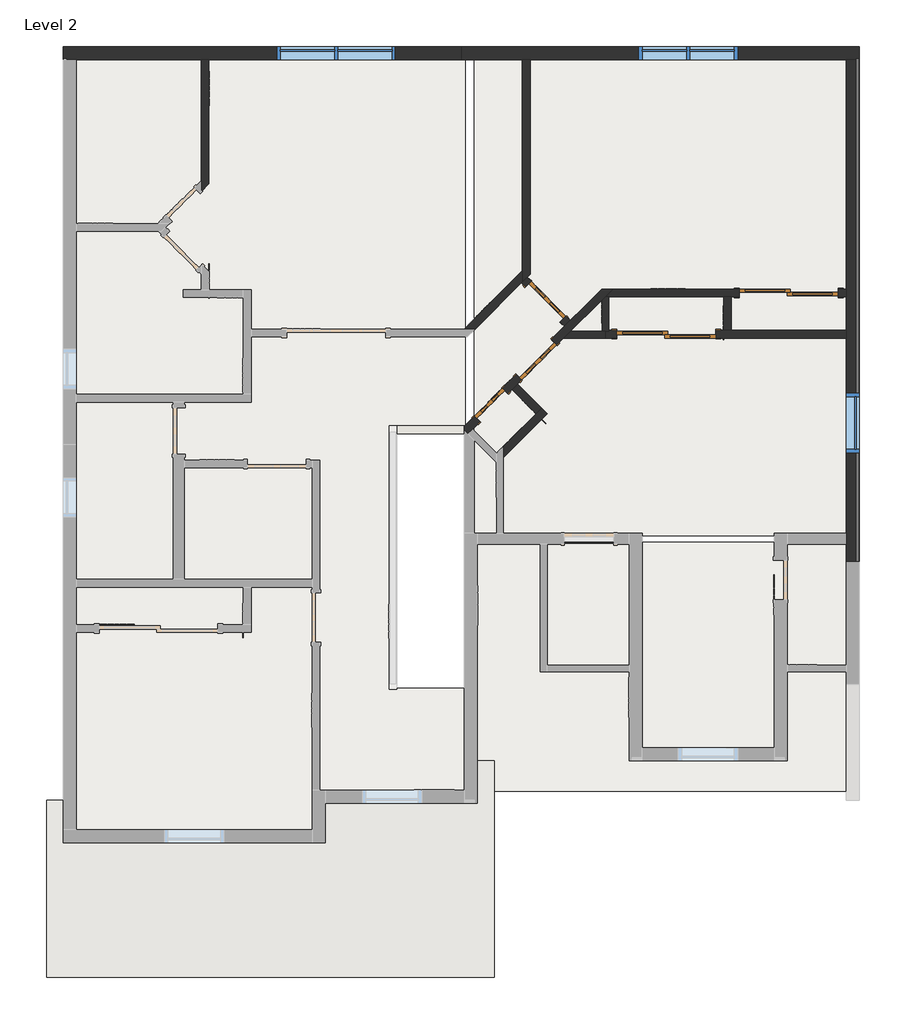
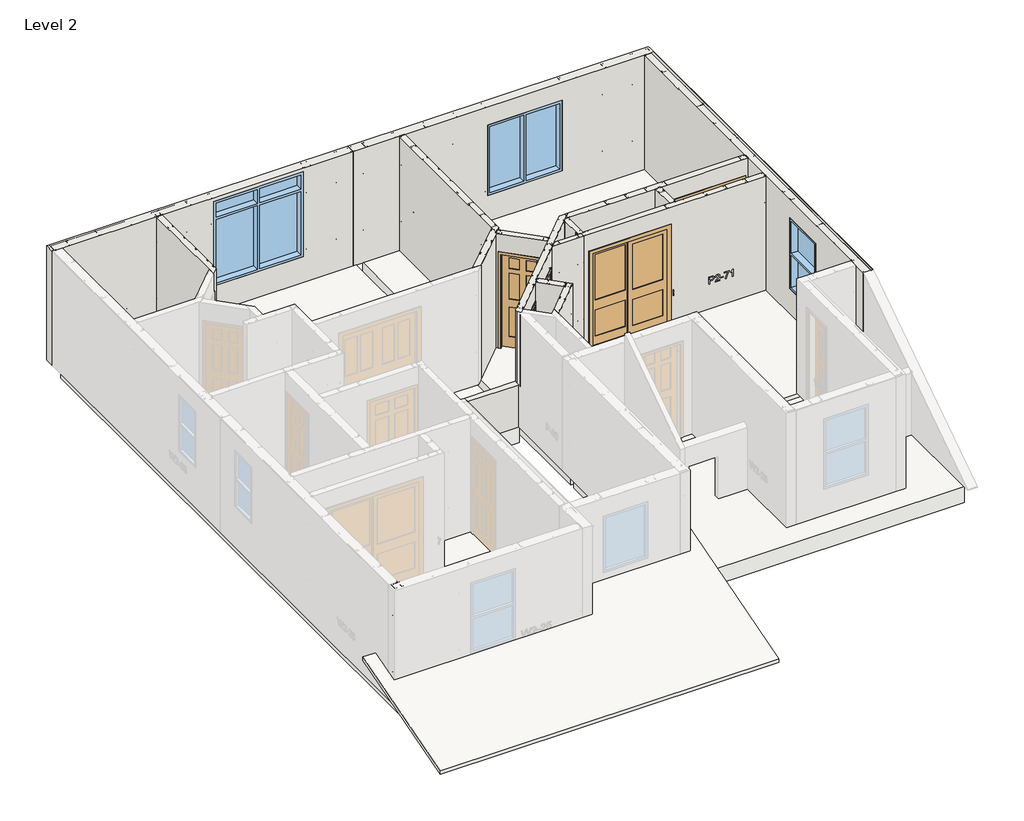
# One storey, part 2 of 46: 16 walls, 5 doors, 3 columns, 3 plates, 3 slabs, 3 windows, 1 roof.
"""IFC4 building model written with IfcOpenShell, lengths in millimetres."""

from ifc_helpers import new_model, si_unit, point, frame, origin, place, context, project, spatial, polyline, circle_curve, ellipse_curve, trimmed, outline, extrude, faceted_brep, transform, mapped, element, save
from ifc_brep_helpers import plane_surface, extruded_surface, advanced_brep
from components import door_9762c4b2, door_449ada1f, door_adb7d28e, system_panel_529702df, system_panel_3e733371, system_panel_1bcdafc3, window_880e6243, window_cc970383, window_7a97fd41

model = new_model("IFC4")

# Units and contexts
model_context = context("Model", 3, world=origin())
ifc_project = project(units=[si_unit("LENGTHUNIT", "METRE", prefix="MILLI")], contexts=[model_context])

# Site, building, storey
site = spatial("IfcSite", under=ifc_project)
building = spatial("IfcBuilding", under=site)
storey = spatial("IfcBuildingStorey", under=building, Name="Level 2", Elevation=3060.7)

# Columns
placement = place(None, origin())
element("IfcColumn", 1, ObjectType="BIMSF-SSMA-S-Column : 550NF150-43", at=placement, inside=storey, context=model_context, shape_type="AdvancedBrep", body=[
    advanced_brep(
    [(-15124.2413349, 1952.752221, 3061.5929687), (-15263.9413349, 1952.752221, 3061.5929687), (-15263.9413349, 1990.852221, 3061.5929687), (-15258.0164507, 1990.852221, 3061.5929687), (-15258.0164507, 1989.7025367, 3061.5929687), (-15262.7916507, 1989.7025367, 3061.5929687), (-15262.7916507, 1953.9019052, 3061.5929687), (-15125.3910191, 1953.9019052, 3061.5929687), (-15125.3910191, 1989.7025367, 3061.5929687), (-15130.1662191, 1989.7025367, 3061.5929687), (-15130.1662191, 1990.852221, 3061.5929687), (-15124.2413349, 1990.852221, 3061.5929687), (-15124.2413349, 1952.752221, 5523.6070313), (-15263.9413349, 1952.752221, 5523.6070313), (-15206.7913349, 1952.752221, 3671.1929688), (-15181.3913349, 1952.752221, 3671.1929688), (-15206.7913349, 1952.752221, 4890.3929687), (-15181.3913349, 1952.752221, 4890.3929687), (-15263.9413349, 1990.852221, 5523.6070313), (-15258.0164507, 1990.852221, 5523.6070313), (-15258.0164507, 1989.7025367, 5523.6070313), (-15262.7916507, 1989.7025367, 5523.6070313), (-15262.7916507, 1953.9019052, 5523.6070313), (-15125.3910191, 1953.9019052, 5523.6070313), (-15181.3913349, 1953.9019052, 3671.1929688), (-15206.7913349, 1953.9019052, 3671.1929688), (-15181.3913349, 1953.9019052, 4890.3929687), (-15206.7913349, 1953.9019052, 4890.3929687), (-15125.3910191, 1989.7025367, 5523.6070313), (-15130.1662191, 1989.7025367, 5523.6070313), (-15130.1662191, 1990.852221, 5523.6070313), (-15124.2413349, 1990.852221, 5523.6070313)],
    [
        (0, 1),
        (1, 2),
        (2, 3),
        (3, 4),
        (4, 5),
        (5, 6),
        (6, 7),
        (7, 8),
        (8, 9),
        (9, 10),
        (10, 11),
        (11, 0),
        (0, 12),
        (12, 13),
        (13, 1),
        (14, 15, circle_curve(frame((-15194.0913349, 1952.752221, 3671.1929687), z_axis=(0.0, 1.0, 0.0), x_axis=(-1.0, 0.0, 0.0)), 12.7)),
        (15, 14, circle_curve(frame((-15194.0913349, 1952.752221, 3671.1929687), z_axis=(0.0, 1.0, 0.0), x_axis=(-1.0, 0.0, 0.0)), 12.7)),
        (16, 17, circle_curve(frame((-15194.0913349, 1952.752221, 4890.3929687), z_axis=(0.0, 1.0, 0.0), x_axis=(-1.0, 0.0, 0.0)), 12.7)),
        (17, 16, circle_curve(frame((-15194.0913349, 1952.752221, 4890.3929687), z_axis=(0.0, 1.0, 0.0), x_axis=(-1.0, 0.0, 0.0)), 12.7)),
        (13, 18),
        (18, 2),
        (18, 19),
        (19, 3),
        (19, 20),
        (20, 4),
        (20, 21),
        (21, 5),
        (21, 22),
        (22, 6),
        (22, 23),
        (23, 7),
        (24, 25, circle_curve(frame((-15194.0913349, 1953.9019052, 3671.1929687), z_axis=(0.0, -1.0, 0.0), x_axis=(-1.0, 0.0, 0.0)), 12.7)),
        (25, 24, circle_curve(frame((-15194.0913349, 1953.9019052, 3671.1929688), z_axis=(0.0, -1.0, 0.0), x_axis=(-1.0, 0.0, 0.0)), 12.7)),
        (26, 27, circle_curve(frame((-15194.0913349, 1953.9019052, 4890.3929687), z_axis=(0.0, -1.0, 0.0), x_axis=(-1.0, 0.0, 0.0)), 12.7)),
        (27, 26, circle_curve(frame((-15194.0913349, 1953.9019052, 4890.3929687), z_axis=(0.0, -1.0, 0.0), x_axis=(-1.0, 0.0, 0.0)), 12.7)),
        (23, 28),
        (28, 8),
        (28, 29),
        (29, 9),
        (29, 30),
        (30, 10),
        (30, 31),
        (31, 11),
        (31, 12),
        (24, 15),
        (14, 25),
        (26, 17),
        (16, 27),
    ],
    [
        plane_surface(frame((-15124.2413349, 1952.752221, 3061.5929687), z_axis=(0.0, 0.0, -1.0), x_axis=(0.0, -1.0, 0.0))),
        plane_surface(frame((-15263.9413349, 1952.752221, 5523.6070313), z_axis=(0.0, -1.0, 0.0), x_axis=(0.0, 0.0, -1.0))),
        plane_surface(frame((-15263.9413349, 1990.852221, 5523.6070313), z_axis=(-1.0, 0.0, 0.0), x_axis=(0.0, 0.0, -1.0))),
        plane_surface(frame((-15258.0164507, 1990.852221, 5523.6070313), z_axis=(0.0, 1.0, 0.0), x_axis=(0.0, 0.0, -1.0))),
        plane_surface(frame((-15258.0164507, 1989.7025367, 5523.6070313), z_axis=(1.0, 0.0, 0.0), x_axis=(0.0, 0.0, -1.0))),
        plane_surface(frame((-15262.7916507, 1989.7025367, 5523.6070313), z_axis=(0.0, -1.0, 0.0), x_axis=(0.0, 0.0, -1.0))),
        plane_surface(frame((-15262.7916507, 1953.9019052, 5523.6070313), z_axis=(1.0, 0.0, 0.0), x_axis=(0.0, 0.0, -1.0))),
        plane_surface(frame((-15125.3910191, 1953.9019052, 5523.6070313), z_axis=(0.0, 1.0, 0.0), x_axis=(0.0, 0.0, -1.0))),
        plane_surface(frame((-15125.3910191, 1989.7025367, 5523.6070313), z_axis=(-1.0, 0.0, 0.0), x_axis=(0.0, 0.0, -1.0))),
        plane_surface(frame((-15130.1662191, 1989.7025367, 5523.6070313), z_axis=(0.0, -1.0, 0.0), x_axis=(0.0, 0.0, -1.0))),
        plane_surface(frame((-15130.1662191, 1990.852221, 5523.6070313), z_axis=(-1.0, 0.0, 0.0), x_axis=(0.0, 0.0, -1.0))),
        plane_surface(frame((-15124.2413349, 1990.852221, 5523.6070313), z_axis=(0.0, 1.0, 0.0), x_axis=(0.0, 0.0, -1.0))),
        plane_surface(frame((-15124.2413349, 1952.752221, 5523.6070313), z_axis=(1.0, 0.0, 0.0), x_axis=(0.0, 0.0, -1.0))),
        plane_surface(frame((-15124.2413349, 1952.752221, 5523.6070313), z_axis=(0.0, 0.0, 1.0), x_axis=(0.0, 1.0, 0.0))),
        extruded_surface(trimmed(ellipse_curve(frame((-15194.0913349, 4433.8162835, 3671.1929688), z_axis=(0.0, -1.0, 0.0), x_axis=(-1.0, 0.0, 0.0)), 12.7, 12.7), [point((-15181.3913349, 4433.8162835, 3671.1929688))], [point((-15206.7913349, 4433.8162835, 3671.1929688))], True, "CARTESIAN"), (0.0, 4924.028124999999, 0.0), 4924.028124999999),
        extruded_surface(trimmed(ellipse_curve(frame((-15194.0913349, 4433.8162835, 3671.1929688), z_axis=(0.0, -1.0, 0.0), x_axis=(-1.0, 0.0, 0.0)), 12.7, 12.7), [point((-15206.7913349, 4433.8162835, 3671.1929688))], [point((-15181.3913349, 4433.8162835, 3671.1929688))], True, "CARTESIAN"), (0.0, 4924.028124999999, 0.0), 4924.028124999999),
        extruded_surface(trimmed(ellipse_curve(frame((-15194.0913349, 4433.8162835, 4890.3929687), z_axis=(0.0, -1.0, 0.0), x_axis=(-1.0, 0.0, 0.0)), 12.7, 12.7), [point((-15181.3913349, 4433.8162835, 4890.3929687))], [point((-15206.7913349, 4433.8162835, 4890.3929687))], True, "CARTESIAN"), (0.0, 4924.028124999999, 0.0), 4924.028124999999),
        extruded_surface(trimmed(ellipse_curve(frame((-15194.0913349, 4433.8162835, 4890.3929687), z_axis=(0.0, -1.0, 0.0), x_axis=(-1.0, 0.0, 0.0)), 12.7, 12.7), [point((-15206.7913349, 4433.8162835, 4890.3929687))], [point((-15181.3913349, 4433.8162835, 4890.3929687))], True, "CARTESIAN"), (0.0, 4924.028124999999, 0.0), 4924.028124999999),
    ],
    [
        (0, [[1, 2, 3, 4, 5, 6, 7, 8, 9, 10, 11, 12]]),
        (1, [[-1, 13, 14, 15], [16, 17], [18, 19]]),
        (2, [[-2, -15, 20, 21]]),
        (3, [[-3, -21, 22, 23]]),
        (4, [[-4, -23, 24, 25]]),
        (5, [[-5, -25, 26, 27]]),
        (6, [[-6, -27, 28, 29]]),
        (7, [[-7, -29, 30, 31], [32, 33], [34, 35]]),
        (8, [[-8, -31, 36, 37]]),
        (9, [[-9, -37, 38, 39]]),
        (10, [[-10, -39, 40, 41]]),
        (11, [[-11, -41, 42, 43]]),
        (12, [[-12, -43, 44, -13]]),
        (13, [[-14, -44, -42, -40, -38, -36, -30, -28, -26, -24, -22, -20]]),
        (14, [[45, -16, 46, -32]]),
        (15, [[-45, -33, -46, -17]]),
        (16, [[47, -18, 48, -34]]),
        (17, [[-47, -35, -48, -19]]),
    ],
),
])
element("IfcColumn", 2, ObjectType="BIMSF-SSMA-S-Column : 550NF150-43", at=placement, inside=storey, context=model_context, shape_type="AdvancedBrep", body=[
    advanced_brep(
    [(-15263.9413349, 1813.052221, 3061.5929687), (-15263.9413349, 1952.752221, 3061.5929687), (-15225.8413349, 1952.752221, 3061.5929687), (-15225.8413349, 1946.8273367, 3061.5929687), (-15226.9910191, 1946.8273367, 3061.5929687), (-15226.9910191, 1951.6025367, 3061.5929687), (-15262.7916507, 1951.6025367, 3061.5929687), (-15262.7916507, 1814.2019052, 3061.5929687), (-15226.9910191, 1814.2019052, 3061.5929687), (-15226.9910191, 1818.9771052, 3061.5929687), (-15225.8413349, 1818.9771052, 3061.5929687), (-15225.8413349, 1813.052221, 3061.5929687), (-15263.9413349, 1813.052221, 5523.6070313), (-15263.9413349, 1952.752221, 5523.6070313), (-15263.9413349, 1895.602221, 3671.1929688), (-15263.9413349, 1870.202221, 3671.1929688), (-15263.9413349, 1895.602221, 4890.3929687), (-15263.9413349, 1870.202221, 4890.3929687), (-15225.8413349, 1952.752221, 5523.6070313), (-15225.8413349, 1946.8273367, 5523.6070313), (-15226.9910191, 1946.8273367, 5523.6070313), (-15226.9910191, 1951.6025367, 5523.6070313), (-15262.7916507, 1951.6025367, 5523.6070313), (-15262.7916507, 1814.2019052, 5523.6070313), (-15262.7916507, 1870.202221, 3671.1929688), (-15262.7916507, 1895.602221, 3671.1929688), (-15262.7916507, 1870.202221, 4890.3929687), (-15262.7916507, 1895.602221, 4890.3929687), (-15226.9910191, 1814.2019052, 5523.6070313), (-15226.9910191, 1818.9771052, 5523.6070313), (-15225.8413349, 1818.9771052, 5523.6070313), (-15225.8413349, 1813.052221, 5523.6070313)],
    [
        (0, 1),
        (1, 2),
        (2, 3),
        (3, 4),
        (4, 5),
        (5, 6),
        (6, 7),
        (7, 8),
        (8, 9),
        (9, 10),
        (10, 11),
        (11, 0),
        (0, 12),
        (12, 13),
        (13, 1),
        (14, 15, circle_curve(frame((-15263.9413349, 1882.902221, 3671.1929687), z_axis=(1.0, 0.0, 0.0), x_axis=(0.0, 1.0, 0.0)), 12.7)),
        (15, 14, circle_curve(frame((-15263.9413349, 1882.902221, 3671.1929687), z_axis=(1.0, 0.0, 0.0), x_axis=(0.0, 1.0, 0.0)), 12.7)),
        (16, 17, circle_curve(frame((-15263.9413349, 1882.902221, 4890.3929687), z_axis=(1.0, 0.0, 0.0), x_axis=(0.0, 1.0, 0.0)), 12.7)),
        (17, 16, circle_curve(frame((-15263.9413349, 1882.902221, 4890.3929687), z_axis=(1.0, 0.0, 0.0), x_axis=(0.0, 1.0, 0.0)), 12.7)),
        (13, 18),
        (18, 2),
        (18, 19),
        (19, 3),
        (19, 20),
        (20, 4),
        (20, 21),
        (21, 5),
        (21, 22),
        (22, 6),
        (22, 23),
        (23, 7),
        (24, 25, circle_curve(frame((-15262.7916507, 1882.902221, 3671.1929687), z_axis=(-1.0, 0.0, 0.0), x_axis=(0.0, 1.0, 0.0)), 12.7)),
        (25, 24, circle_curve(frame((-15262.7916507, 1882.902221, 3671.1929687), z_axis=(-1.0, 0.0, 0.0), x_axis=(0.0, 1.0, 0.0)), 12.7)),
        (26, 27, circle_curve(frame((-15262.7916507, 1882.902221, 4890.3929687), z_axis=(-1.0, 0.0, 0.0), x_axis=(0.0, 1.0, 0.0)), 12.7)),
        (27, 26, circle_curve(frame((-15262.7916507, 1882.902221, 4890.3929687), z_axis=(-1.0, 0.0, 0.0), x_axis=(0.0, 1.0, 0.0)), 12.7)),
        (23, 28),
        (28, 8),
        (28, 29),
        (29, 9),
        (29, 30),
        (30, 10),
        (30, 31),
        (31, 11),
        (31, 12),
        (24, 15),
        (14, 25),
        (26, 17),
        (16, 27),
    ],
    [
        plane_surface(frame((-15263.9413349, 1813.052221, 3061.5929687), z_axis=(0.0, 0.0, -1.0), x_axis=(-1.0, 0.0, 0.0))),
        plane_surface(frame((-15263.9413349, 1952.752221, 5523.6070313), z_axis=(-1.0, 0.0, 0.0), x_axis=(0.0, 0.0, -1.0))),
        plane_surface(frame((-15225.8413349, 1952.752221, 5523.6070313), z_axis=(0.0, 1.0, 0.0), x_axis=(0.0, 0.0, -1.0))),
        plane_surface(frame((-15225.8413349, 1946.8273367, 5523.6070313), z_axis=(1.0, 0.0, 0.0), x_axis=(0.0, 0.0, -1.0))),
        plane_surface(frame((-15226.9910191, 1946.8273367, 5523.6070313), z_axis=(0.0, -1.0, 0.0), x_axis=(0.0, 0.0, -1.0))),
        plane_surface(frame((-15226.9910191, 1951.6025367, 5523.6070313), z_axis=(-1.0, 0.0, 0.0), x_axis=(0.0, 0.0, -1.0))),
        plane_surface(frame((-15262.7916507, 1951.6025367, 5523.6070313), z_axis=(0.0, -1.0, 0.0), x_axis=(0.0, 0.0, -1.0))),
        plane_surface(frame((-15262.7916507, 1814.2019052, 5523.6070313), z_axis=(1.0, 0.0, 0.0), x_axis=(0.0, 0.0, -1.0))),
        plane_surface(frame((-15226.9910191, 1814.2019052, 5523.6070313), z_axis=(0.0, 1.0, 0.0), x_axis=(0.0, 0.0, -1.0))),
        plane_surface(frame((-15226.9910191, 1818.9771052, 5523.6070313), z_axis=(-1.0, 0.0, 0.0), x_axis=(0.0, 0.0, -1.0))),
        plane_surface(frame((-15225.8413349, 1818.9771052, 5523.6070313), z_axis=(0.0, 1.0, 0.0), x_axis=(0.0, 0.0, -1.0))),
        plane_surface(frame((-15225.8413349, 1813.052221, 5523.6070313), z_axis=(1.0, 0.0, 0.0), x_axis=(0.0, 0.0, -1.0))),
        plane_surface(frame((-15263.9413349, 1813.052221, 5523.6070313), z_axis=(0.0, -1.0, 0.0), x_axis=(0.0, 0.0, -1.0))),
        plane_surface(frame((-15263.9413349, 1813.052221, 5523.6070313), z_axis=(0.0, 0.0, 1.0), x_axis=(1.0, 0.0, 0.0))),
        extruded_surface(trimmed(ellipse_curve(frame((-12782.8772724, 1882.902221, 3671.1929688), z_axis=(-1.0, 0.0, 0.0), x_axis=(0.0, 1.0, 0.0)), 12.7, 12.7), [point((-12782.8772724, 1870.202221, 3671.1929688))], [point((-12782.8772724, 1895.602221, 3671.1929688))], True, "CARTESIAN"), (4924.028124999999, 0.0, 0.0), 4924.028124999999),
        extruded_surface(trimmed(ellipse_curve(frame((-12782.8772724, 1882.902221, 3671.1929688), z_axis=(-1.0, 0.0, 0.0), x_axis=(0.0, 1.0, 0.0)), 12.7, 12.7), [point((-12782.8772724, 1895.602221, 3671.1929688))], [point((-12782.8772724, 1870.202221, 3671.1929688))], True, "CARTESIAN"), (4924.028124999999, 0.0, 0.0), 4924.028124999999),
        extruded_surface(trimmed(ellipse_curve(frame((-12782.8772724, 1882.902221, 4890.3929687), z_axis=(-1.0, 0.0, 0.0), x_axis=(0.0, 1.0, 0.0)), 12.7, 12.7), [point((-12782.8772724, 1870.202221, 4890.3929687))], [point((-12782.8772724, 1895.602221, 4890.3929687))], True, "CARTESIAN"), (4924.028124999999, 0.0, 0.0), 4924.028124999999),
        extruded_surface(trimmed(ellipse_curve(frame((-12782.8772724, 1882.902221, 4890.3929687), z_axis=(-1.0, 0.0, 0.0), x_axis=(0.0, 1.0, 0.0)), 12.7, 12.7), [point((-12782.8772724, 1895.602221, 4890.3929687))], [point((-12782.8772724, 1870.202221, 4890.3929687))], True, "CARTESIAN"), (4924.028124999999, 0.0, 0.0), 4924.028124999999),
    ],
    [
        (0, [[1, 2, 3, 4, 5, 6, 7, 8, 9, 10, 11, 12]]),
        (1, [[-1, 13, 14, 15], [16, 17], [18, 19]]),
        (2, [[-2, -15, 20, 21]]),
        (3, [[-3, -21, 22, 23]]),
        (4, [[-4, -23, 24, 25]]),
        (5, [[-5, -25, 26, 27]]),
        (6, [[-6, -27, 28, 29]]),
        (7, [[-7, -29, 30, 31], [32, 33], [34, 35]]),
        (8, [[-8, -31, 36, 37]]),
        (9, [[-9, -37, 38, 39]]),
        (10, [[-10, -39, 40, 41]]),
        (11, [[-11, -41, 42, 43]]),
        (12, [[-12, -43, 44, -13]]),
        (13, [[-14, -44, -42, -40, -38, -36, -30, -28, -26, -24, -22, -20]]),
        (14, [[45, -16, 46, -32]]),
        (15, [[-45, -33, -46, -17]]),
        (16, [[47, -18, 48, -34]]),
        (17, [[-47, -35, -48, -19]]),
    ],
),
])
element("IfcColumn", 3, ObjectType="BIMSF-SSMA-S-Column : 550NF150-43", at=placement, inside=storey, context=model_context, shape_type="AdvancedBrep", body=[
    advanced_brep(
    [(-15130.5913349, 1813.052221, 3061.5929687), (-15130.5913349, 1952.752221, 3061.5929687), (-15092.4913349, 1952.752221, 3061.5929687), (-15092.4913349, 1946.8273367, 3061.5929687), (-15093.6410191, 1946.8273367, 3061.5929687), (-15093.6410191, 1951.6025367, 3061.5929687), (-15129.4416507, 1951.6025367, 3061.5929687), (-15129.4416507, 1814.2019052, 3061.5929687), (-15093.6410191, 1814.2019052, 3061.5929687), (-15093.6410191, 1818.9771052, 3061.5929687), (-15092.4913349, 1818.9771052, 3061.5929687), (-15092.4913349, 1813.052221, 3061.5929687), (-15130.5913349, 1813.052221, 5523.6070313), (-15130.5913349, 1952.752221, 5523.6070313), (-15130.5913349, 1895.602221, 3671.1929688), (-15130.5913349, 1870.202221, 3671.1929688), (-15130.5913349, 1895.602221, 4890.3929687), (-15130.5913349, 1870.202221, 4890.3929687), (-15092.4913349, 1952.752221, 5523.6070313), (-15092.4913349, 1946.8273367, 5523.6070313), (-15093.6410191, 1946.8273367, 5523.6070313), (-15093.6410191, 1951.6025367, 5523.6070313), (-15129.4416507, 1951.6025367, 5523.6070313), (-15129.4416507, 1814.2019052, 5523.6070313), (-15129.4416507, 1870.202221, 3671.1929688), (-15129.4416507, 1895.602221, 3671.1929688), (-15129.4416507, 1870.202221, 4890.3929687), (-15129.4416507, 1895.602221, 4890.3929687), (-15093.6410191, 1814.2019052, 5523.6070313), (-15093.6410191, 1818.9771052, 5523.6070313), (-15092.4913349, 1818.9771052, 5523.6070313), (-15092.4913349, 1813.052221, 5523.6070313)],
    [
        (0, 1),
        (1, 2),
        (2, 3),
        (3, 4),
        (4, 5),
        (5, 6),
        (6, 7),
        (7, 8),
        (8, 9),
        (9, 10),
        (10, 11),
        (11, 0),
        (0, 12),
        (12, 13),
        (13, 1),
        (14, 15, circle_curve(frame((-15130.5913349, 1882.902221, 3671.1929688), z_axis=(1.0, 0.0, 0.0), x_axis=(0.0, 1.0, 0.0)), 12.7)),
        (15, 14, circle_curve(frame((-15130.5913349, 1882.902221, 3671.1929688), z_axis=(1.0, 0.0, 0.0), x_axis=(0.0, 1.0, 0.0)), 12.7)),
        (16, 17, circle_curve(frame((-15130.5913349, 1882.902221, 4890.3929687), z_axis=(1.0, 0.0, 0.0), x_axis=(0.0, 1.0, 0.0)), 12.7)),
        (17, 16, circle_curve(frame((-15130.5913349, 1882.902221, 4890.3929687), z_axis=(1.0, 0.0, 0.0), x_axis=(0.0, 1.0, 0.0)), 12.7)),
        (13, 18),
        (18, 2),
        (18, 19),
        (19, 3),
        (19, 20),
        (20, 4),
        (20, 21),
        (21, 5),
        (21, 22),
        (22, 6),
        (22, 23),
        (23, 7),
        (24, 25, circle_curve(frame((-15129.4416507, 1882.902221, 3671.1929687), z_axis=(-1.0, 0.0, 0.0), x_axis=(0.0, 1.0, 0.0)), 12.7)),
        (25, 24, circle_curve(frame((-15129.4416507, 1882.902221, 3671.1929687), z_axis=(-1.0, 0.0, 0.0), x_axis=(0.0, 1.0, 0.0)), 12.7)),
        (26, 27, circle_curve(frame((-15129.4416507, 1882.902221, 4890.3929687), z_axis=(-1.0, 0.0, 0.0), x_axis=(0.0, 1.0, 0.0)), 12.7)),
        (27, 26, circle_curve(frame((-15129.4416507, 1882.902221, 4890.3929687), z_axis=(-1.0, 0.0, 0.0), x_axis=(0.0, 1.0, 0.0)), 12.7)),
        (23, 28),
        (28, 8),
        (28, 29),
        (29, 9),
        (29, 30),
        (30, 10),
        (30, 31),
        (31, 11),
        (31, 12),
        (24, 15),
        (14, 25),
        (26, 17),
        (16, 27),
    ],
    [
        plane_surface(frame((-15130.5913349, 1813.052221, 3061.5929687), z_axis=(0.0, 0.0, -1.0), x_axis=(-1.0, 0.0, 0.0))),
        plane_surface(frame((-15130.5913349, 1952.752221, 5523.6070313), z_axis=(-1.0, 0.0, 0.0), x_axis=(0.0, 0.0, -1.0))),
        plane_surface(frame((-15092.4913349, 1952.752221, 5523.6070313), z_axis=(0.0, 1.0, 0.0), x_axis=(0.0, 0.0, -1.0))),
        plane_surface(frame((-15092.4913349, 1946.8273367, 5523.6070313), z_axis=(1.0, 0.0, 0.0), x_axis=(0.0, 0.0, -1.0))),
        plane_surface(frame((-15093.6410191, 1946.8273367, 5523.6070313), z_axis=(0.0, -1.0, 0.0), x_axis=(0.0, 0.0, -1.0))),
        plane_surface(frame((-15093.6410191, 1951.6025367, 5523.6070313), z_axis=(-1.0, 0.0, 0.0), x_axis=(0.0, 0.0, -1.0))),
        plane_surface(frame((-15129.4416507, 1951.6025367, 5523.6070313), z_axis=(0.0, -1.0, 0.0), x_axis=(0.0, 0.0, -1.0))),
        plane_surface(frame((-15129.4416507, 1814.2019052, 5523.6070313), z_axis=(1.0, 0.0, 0.0), x_axis=(0.0, 0.0, -1.0))),
        plane_surface(frame((-15093.6410191, 1814.2019052, 5523.6070313), z_axis=(0.0, 1.0, 0.0), x_axis=(0.0, 0.0, -1.0))),
        plane_surface(frame((-15093.6410191, 1818.9771052, 5523.6070313), z_axis=(-1.0, 0.0, 0.0), x_axis=(0.0, 0.0, -1.0))),
        plane_surface(frame((-15092.4913349, 1818.9771052, 5523.6070313), z_axis=(0.0, 1.0, 0.0), x_axis=(0.0, 0.0, -1.0))),
        plane_surface(frame((-15092.4913349, 1813.052221, 5523.6070313), z_axis=(1.0, 0.0, 0.0), x_axis=(0.0, 0.0, -1.0))),
        plane_surface(frame((-15130.5913349, 1813.052221, 5523.6070313), z_axis=(0.0, -1.0, 0.0), x_axis=(0.0, 0.0, -1.0))),
        plane_surface(frame((-15130.5913349, 1813.052221, 5523.6070313), z_axis=(0.0, 0.0, 1.0), x_axis=(1.0, 0.0, 0.0))),
        extruded_surface(trimmed(ellipse_curve(frame((-12649.5272724, 1882.902221, 3671.1929688), z_axis=(-1.0, 0.0, 0.0), x_axis=(0.0, 1.0, 0.0)), 12.7, 12.7), [point((-12649.5272724, 1870.202221, 3671.1929688))], [point((-12649.5272724, 1895.602221, 3671.1929688))], True, "CARTESIAN"), (4924.028125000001, 0.0, 0.0), 4924.028125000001),
        extruded_surface(trimmed(ellipse_curve(frame((-12649.5272724, 1882.902221, 3671.1929688), z_axis=(-1.0, 0.0, 0.0), x_axis=(0.0, 1.0, 0.0)), 12.7, 12.7), [point((-12649.5272724, 1895.602221, 3671.1929688))], [point((-12649.5272724, 1870.202221, 3671.1929688))], True, "CARTESIAN"), (4924.028125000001, 0.0, 0.0), 4924.028125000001),
        extruded_surface(trimmed(ellipse_curve(frame((-12649.5272724, 1882.902221, 4890.3929687), z_axis=(-1.0, 0.0, 0.0), x_axis=(0.0, 1.0, 0.0)), 12.7, 12.7), [point((-12649.5272724, 1870.202221, 4890.3929687))], [point((-12649.5272724, 1895.602221, 4890.3929687))], True, "CARTESIAN"), (4924.028125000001, 0.0, 0.0), 4924.028125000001),
        extruded_surface(trimmed(ellipse_curve(frame((-12649.5272724, 1882.902221, 4890.3929687), z_axis=(-1.0, 0.0, 0.0), x_axis=(0.0, 1.0, 0.0)), 12.7, 12.7), [point((-12649.5272724, 1895.602221, 4890.3929687))], [point((-12649.5272724, 1870.202221, 4890.3929687))], True, "CARTESIAN"), (4924.028125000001, 0.0, 0.0), 4924.028125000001),
    ],
    [
        (0, [[1, 2, 3, 4, 5, 6, 7, 8, 9, 10, 11, 12]]),
        (1, [[-1, 13, 14, 15], [16, 17], [18, 19]]),
        (2, [[-2, -15, 20, 21]]),
        (3, [[-3, -21, 22, 23]]),
        (4, [[-4, -23, 24, 25]]),
        (5, [[-5, -25, 26, 27]]),
        (6, [[-6, -27, 28, 29]]),
        (7, [[-7, -29, 30, 31], [32, 33], [34, 35]]),
        (8, [[-8, -31, 36, 37]]),
        (9, [[-9, -37, 38, 39]]),
        (10, [[-10, -39, 40, 41]]),
        (11, [[-11, -41, 42, 43]]),
        (12, [[-12, -43, 44, -13]]),
        (13, [[-14, -44, -42, -40, -38, -36, -30, -28, -26, -24, -22, -20]]),
        (14, [[45, -16, 46, -32]]),
        (15, [[-45, -33, -46, -17]]),
        (16, [[47, -18, 48, -34]]),
        (17, [[-47, -35, -48, -19]]),
    ],
),
])

# Doors
door_shape = door_9762c4b2(model_context)
element("IfcDoor", 4, ObjectType="INT_Single : 2'-0\" x 6'-8\"", at=placement, inside=storey, context=model_context, shape_type="MappedRepresentation", body=[
    mapped(door_shape, transform((-8705.1652416, 8522.4486211, 3060.7), x_axis=(0.7071067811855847, 0.7071067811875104, 0.0), y_axis=(-0.7071067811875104, 0.7071067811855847, 0.0), z_axis=(0.0, 0.0, 1.0))),
])
door_2_shape = door_449ada1f(model_context)
element("IfcDoor", 5, ObjectType="INT_Single : 2'-6\" x 6'-8\"", at=placement, inside=storey, context=model_context, shape_type="MappedRepresentation", body=[
    mapped(door_2_shape, transform((-7863.2486153, 10116.5864223, 3060.7), x_axis=(0.7071067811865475, -0.7071067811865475, 0.0), y_axis=(0.7071067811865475, 0.7071067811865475, 0.0), z_axis=(0.0, 0.0, 1.0))),
])
element("IfcDoor", 6, ObjectType="INT_Single : 2'-6\" x 6'-8\"", at=placement, inside=storey, context=model_context, shape_type="MappedRepresentation", body=[
    mapped(door_2_shape, transform((-8006.8346733, 9220.7791894, 3060.7), x_axis=(-0.7071067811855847, -0.7071067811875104, 0.0), y_axis=(0.7071067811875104, -0.7071067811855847, 0.0), z_axis=(0.0, 0.0, 1.0))),
])
door_3_shape = door_adb7d28e(model_context)
element("IfcDoor", 7, ObjectType="INT_Sliding Closet : 5'-0\" x 6'-8\"", at=placement, inside=storey, context=model_context, shape_type="MappedRepresentation", body=[
    mapped(door_3_shape, transform((-6004.3049045, 9742.2035298, 3060.7), x_axis=(-1.0, 0.0, 0.0), y_axis=(0.0, -1.0, 0.0), z_axis=(0.0, 0.0, 1.0))),
])
element("IfcDoor", 8, ObjectType="INT_Sliding Closet : 5'-0\" x 6'-8\"", at=placement, inside=storey, context=model_context, shape_type="MappedRepresentation", body=[
    mapped(door_3_shape, transform((-4113.3413349, 10124.1207511, 3060.7), x_axis=(1.0, 0.0, 0.0), y_axis=(0.0, 1.0, 0.0), z_axis=(0.0, 0.0, 1.0))),
])

# Plates
system_panel_shape = system_panel_529702df(model_context)
element("IfcPlate", 9, ObjectType="System Panel : 1/2\" Plywood & 1\" Rigid Ins.", at=placement, inside=storey, context=model_context, shape_type="MappedRepresentation", body=[
    mapped(system_panel_shape, transform((-6119.9413349, 14024.102221, 3060.7), x_axis=(1.0, 0.0, 0.0), y_axis=(0.0, 1.0, 0.0), z_axis=(0.0, 0.0, 1.0))),
])
system_panel_2_shape = system_panel_3e733371(model_context)
element("IfcPlate", 10, ObjectType="System Panel : 1/2\" Plywood & 1\" Rigid Ins.", at=placement, inside=storey, context=model_context, shape_type="MappedRepresentation", body=[
    mapped(system_panel_2_shape, transform((-3052.8913349, 9984.8718592, 3060.7), x_axis=(0.0, -1.0, 0.0), y_axis=(1.0, 0.0, 0.0), z_axis=(0.0, 0.0, 1.0))),
])
system_panel_3_shape = system_panel_1bcdafc3(model_context)
element("IfcPlate", 11, ObjectType="System Panel : 1/2\" Plywood & 1\" Rigid Ins.", at=placement, inside=storey, context=model_context, shape_type="MappedRepresentation", body=[
    mapped(system_panel_3_shape, transform((-12215.9413349, 14024.102221, 3060.7), x_axis=(1.0, 0.0, 0.0), y_axis=(0.0, 1.0, 0.0), z_axis=(0.0, 0.0, 1.0))),
])

# Roof
element("IfcRoof", 12, ObjectType="Truss_250TC_01", at=placement, inside=storey, context=model_context, shape_type="Brep", body=[
    faceted_brep([(-15568.7413349, -314.197779, 2913.2932022), (-15568.7413349, 2422.652221, 3711.5411188), (-15309.9788349, 2422.652221, 3711.5411188), (-15263.9413349, 2422.652221, 3711.5411188), (-15263.9413349, 1968.627221, 3579.1171605), (-15263.9413349, 1813.052221, 3533.7411188), (-11469.8163349, 1813.052221, 3533.7411188), (-11314.2413349, 1813.052221, 3533.7411188), (-11314.2413349, 2422.652221, 3711.5411188), (-11268.2038349, 2422.652221, 3711.5411188), (-9120.3163349, 2422.652221, 3711.5411188), (-8964.7413349, 2422.652221, 3711.5411188), (-8964.7413349, 3032.252221, 3889.3411188), (-8918.7038349, 3032.252221, 3889.3411188), (-8659.9413349, 3032.252221, 3889.3411188), (-8659.9413349, -314.197779, 2913.2932022), (-15568.7413349, 2422.652221, 3790.9161188), (-15568.7413349, -314.197779, 2992.6682022), (-8659.9413349, -314.197779, 2992.6682022), (-8659.9413349, 3032.252221, 3968.7161188), (-8918.7038349, 3032.252221, 3968.7161188), (-8964.7413349, 3032.252221, 3968.7161188), (-8964.7413349, 2422.652221, 3790.9161188), (-9120.3163349, 2422.652221, 3790.9161188), (-11268.2038349, 2422.652221, 3790.9161188), (-11314.2413349, 2422.652221, 3790.9161188), (-11314.2413349, 1813.052221, 3613.1161188), (-11469.8163349, 1813.052221, 3613.1161188), (-15263.9413349, 1813.052221, 3613.1161188), (-15263.9413349, 1968.627221, 3658.4921605), (-15263.9413349, 2422.652221, 3790.9161188), (-15309.9788349, 2422.652221, 3790.9161188)], [[[0, 1, 2, 3, 4, 5, 6, 7, 8, 9, 10, 11, 12, 13, 14, 15]], [[16, 17, 18, 19, 20, 21, 22, 23, 24, 25, 26, 27, 28, 29, 30, 31]], [[15, 18, 17, 0]], [[17, 16, 1, 0]], [[19, 18, 15, 14]], [[28, 27, 26, 7, 6, 5]], [[26, 25, 8, 7]], [[25, 24, 23, 22, 11, 10, 9, 8]], [[21, 20, 19, 14, 13, 12]], [[22, 21, 12, 11]], [[16, 31, 30, 3, 2, 1]], [[30, 29, 28, 5, 4, 3]]]),
])

# Slabs
element("IfcSlab", 13, ObjectType="FLR_1200_01", at=placement, inside=storey, context=model_context, shape_type="SweptSolid", body=[
    extrude(outline(polyline([(-15124.2413349, 13865.352221), (-9104.4413349, 13865.352221), (-9104.4413349, 8097.4454064), (-10177.5913349, 8097.4454064), (-10177.5913349, 4150.3786599), (-9104.4413349, 4150.3786599), (-9104.4413349, 2562.352221), (-11453.9413349, 2562.352221), (-11453.9413349, 1952.752221), (-15124.2413349, 1952.752221), (-15124.2413349, 13865.352221)])), frame((0.0, 0.0, 2711.45), z_axis=(0.0, 0.0, 1.0), x_axis=(1.0, 0.0, 0.0)), (0.0, 0.0, 1.0), 349.25),
])
element("IfcSlab", 14, ObjectType="FLR_1200_01", at=placement, inside=storey, context=model_context, shape_type="SweptSolid", body=[
    extrude(outline(polyline([(-3211.6413349, 13865.352221), (-3211.6413349, 6505.702221), (-8964.7413349, 6505.702221), (-8964.7413349, 13865.352221), (-3211.6413349, 13865.352221)])), frame((0.0, 0.0, 2711.45), z_axis=(0.0, 0.0, 1.0), x_axis=(1.0, 0.0, 0.0)), (0.0, 0.0, 1.0), 349.25),
])
element("IfcSlab", 15, ObjectType="FLR_1200_01", at=placement, inside=storey, context=model_context, shape_type="SweptSolid", body=[
    extrude(outline(polyline([(-8964.7413349, 6404.102221), (-3211.6413349, 6404.102221), (-3211.6413349, 2562.352221), (-8964.7413349, 2562.352221), (-8964.7413349, 6404.102221)])), frame((0.0, 0.0, 2711.45), z_axis=(0.0, 0.0, 1.0), x_axis=(1.0, 0.0, 0.0)), (0.0, 0.0, 1.0), 349.25),
])

# Walls
element("IfcWall", 16, ObjectType="EXT_550_Siding_01", at=placement, inside=storey, context=model_context, shape_type="Brep", body=[
    faceted_brep([(-15309.9788349, 13849.477221, 3060.7), (-15108.3663349, 13849.477221, 3060.7), (-9167.9413349, 13849.477221, 3060.7), (-9167.9413349, 13849.477221, 5524.5), (-15108.3663349, 13849.477221, 5524.5), (-15263.9413349, 13849.477221, 5524.5), (-15309.9788349, 13849.477221, 5524.5), (-12012.7413349, 13849.477221, 3619.5), (-12012.7413349, 13849.477221, 5448.3), (-10183.9413349, 13849.477221, 5448.3), (-10183.9413349, 13849.477221, 3619.5), (-9167.9413349, 14051.089721, 5524.5), (-9167.9413349, 14051.089721, 3060.7), (-15309.9788349, 14051.089721, 3060.7), (-15309.9788349, 14051.089721, 5524.5), (-15263.9413349, 14051.089721, 5524.5), (-12012.7413349, 14051.089721, 5448.3), (-12012.7413349, 14051.089721, 3619.5), (-10183.9413349, 14051.089721, 3619.5), (-10183.9413349, 14051.089721, 5448.3), (-9167.9413349, 14005.052221, 3060.7), (-15309.9788349, 14005.052221, 3060.7)], [[[0, 1, 2, 3, 4, 5, 6], [7, 8, 9, 10]], [[11, 12, 13, 14, 15], [16, 17, 18, 19]], [[3, 2, 20, 12, 11]], [[6, 5, 4, 3, 11, 15, 14]], [[0, 6, 14, 13, 21]], [[2, 1, 0, 21, 20]], [[21, 13, 12, 20]], [[16, 8, 7, 17]], [[18, 10, 9, 19]], [[8, 16, 19, 9]], [[10, 18, 17, 7]]]),
])
element("IfcWall", 17, ObjectType="EXT_550_Siding_01", at=placement, inside=storey, context=model_context, shape_type="Brep", body=[
    faceted_brep([(-3227.5163349, 13849.477221, 3060.7), (-3227.5163349, 6540.627221, 3060.7), (-3227.5163349, 6369.177221, 3060.7), (-3227.5163349, 6104.3914974, 3060.7), (-3227.5163349, 6104.3914974, 5524.5), (-3227.5163349, 6369.177221, 5524.5), (-3227.5163349, 6540.627221, 5524.5), (-3227.5163349, 13849.477221, 5524.5), (-3227.5163349, 8700.1332511, 5143.5), (-3227.5163349, 7785.7332511, 5143.5), (-3227.5163349, 7785.7332511, 3619.5), (-3227.5163349, 8700.1332511, 3619.5), (-3025.9038349, 13849.477221, 3060.7), (-3025.9038349, 13849.477221, 5524.5), (-3025.9038349, 6104.3914974, 5524.5), (-3025.9038349, 6104.3914974, 3060.7), (-3025.9038349, 8700.1332511, 5143.5), (-3025.9038349, 8700.1332511, 3619.5), (-3025.9038349, 7785.7332511, 3619.5), (-3025.9038349, 7785.7332511, 5143.5), (-3071.9413349, 6104.3914974, 3060.7), (-3071.9413349, 13849.477221, 3060.7)], [[[0, 1, 2, 3, 4, 5, 6, 7], [8, 9, 10, 11]], [[12, 13, 14, 15], [16, 17, 18, 19]], [[4, 3, 20, 15, 14]], [[7, 6, 5, 4, 14, 13]], [[0, 7, 13, 12, 21]], [[3, 2, 1, 0, 21, 20]], [[21, 12, 15, 20]], [[17, 16, 8, 11]], [[18, 17, 11, 10]], [[19, 18, 10, 9]], [[16, 19, 9, 8]]]),
])
element("IfcWall", 18, ObjectType="EXT_550_Siding_01", at=placement, inside=storey, context=model_context, shape_type="Brep", body=[
    faceted_brep([(-9167.9413349, 13849.477221, 3060.7), (-3227.5163349, 13849.477221, 3060.7), (-3025.9038349, 13849.477221, 3060.7), (-3025.9038349, 13849.477221, 5524.5), (-3227.5163349, 13849.477221, 5524.5), (-9167.9413349, 13849.477221, 5524.5), (-6427.3824436, 13849.477221, 5143.5), (-4903.3824436, 13849.477221, 5143.5), (-4903.3824436, 13849.477221, 3619.5), (-6427.3824436, 13849.477221, 3619.5), (-9167.9413349, 14051.089721, 3060.7), (-9167.9413349, 14051.089721, 5524.5), (-3025.9038349, 14051.089721, 5524.5), (-3025.9038349, 14051.089721, 3060.7), (-6427.3824436, 14051.089721, 5143.5), (-6427.3824436, 14051.089721, 3619.5), (-4903.3824436, 14051.089721, 3619.5), (-4903.3824436, 14051.089721, 5143.5), (-3025.9038349, 14005.052221, 5524.5), (-9167.9413349, 14005.052221, 3060.7), (-3025.9038349, 14005.052221, 3060.7)], [[[0, 1, 2, 3, 4, 5], [6, 7, 8, 9]], [[10, 11, 12, 13], [14, 15, 16, 17]], [[5, 4, 3, 18, 12, 11]], [[0, 5, 11, 10, 19]], [[3, 2, 20, 13, 12, 18]], [[2, 1, 0, 19, 20]], [[14, 17, 7, 6]], [[17, 16, 8, 7]], [[16, 15, 9, 8]], [[15, 14, 6, 9]], [[19, 10, 13, 20]]]),
])
element("IfcWall", 19, ObjectType="INT_350_Gyp_01", at=placement, inside=storey, context=model_context, shape_type="Brep", body=[
    faceted_brep([(-10161.7163349, 8081.5704064, 3975.1), (-10161.7163349, 8081.5704064, 3060.7), (-9120.3163349, 8081.5704064, 3060.7), (-9073.624592, 8081.5704064, 3060.7), (-9060.7310232, 8081.5704064, 3060.7), (-9060.7310232, 8081.5704064, 3975.1), (-9073.624592, 8081.5704064, 3975.1), (-9120.3163349, 8081.5704064, 3975.1), (-8940.0810232, 8202.2204064, 3060.7), (-9110.7058895, 8202.2204064, 3060.7), (-10161.7163349, 8202.2204064, 3060.7), (-10161.7163349, 8202.2204064, 3975.1), (-9110.7058895, 8202.2204064, 3975.1), (-8940.0810232, 8202.2204064, 3975.1), (-8993.0906946, 8149.210735, 3060.7), (-8993.0906946, 8149.210735, 3975.1)], [[[0, 1, 2, 3, 4, 5, 6, 7]], [[8, 9, 10, 11, 12, 13]], [[10, 9, 8, 14, 4, 3, 2, 1]], [[13, 12, 11, 0, 7, 6, 5, 15]], [[1, 0, 11, 10]], [[5, 4, 14, 8, 13, 15]]]),
])
element("IfcWall", 20, ObjectType="INT_350_Gyp_01", at=placement, inside=storey, context=model_context, shape_type="Brep", body=[
    faceted_brep([(-8223.8985524, 13849.477221, 3060.7), (-8223.8985524, 10593.2206438, 3060.7), (-8223.8985524, 10422.5957774, 3060.7), (-8223.8985524, 10422.5957774, 5524.5), (-8223.8985524, 10593.2206438, 5524.5), (-8223.8985524, 13849.477221, 5524.5), (-8103.2485524, 13849.477221, 3060.7), (-8103.2485524, 13849.477221, 5524.5), (-8103.2485524, 10543.2457774, 5524.5), (-8103.2485524, 10543.2457774, 3060.7), (-8153.9220449, 10492.572285, 3060.7), (-8153.9220449, 10492.572285, 5524.5)], [[[0, 1, 2, 3, 4, 5]], [[6, 7, 8, 9]], [[2, 1, 0, 6, 9, 10]], [[5, 4, 3, 11, 8, 7]], [[3, 2, 10, 9, 8, 11]], [[0, 5, 7, 6]]]),
])
element("IfcWall", 21, ObjectType="INT_350_Gyp_01", at=placement, inside=storey, context=model_context, shape_type="Brep", body=[
    faceted_brep([(-13184.3163349, 13849.477221, 3060.7), (-13184.3163349, 11984.6032869, 3060.7), (-13184.3163349, 11813.9784206, 3060.7), (-13184.3163349, 11813.9784206, 5524.5), (-13184.3163349, 11984.6032869, 5524.5), (-13184.3163349, 13849.477221, 5524.5), (-13063.6663349, 13849.477221, 3060.7), (-13063.6663349, 13849.477221, 5524.5), (-13063.6663349, 11934.6284206, 5524.5), (-13063.6663349, 11934.6284206, 3060.7)], [[[0, 1, 2, 3, 4, 5]], [[6, 7, 8, 9]], [[2, 1, 0, 6, 9]], [[5, 4, 3, 8, 7]], [[3, 2, 9, 8]], [[0, 5, 7, 6]]]),
])
element("IfcWall", 22, ObjectType="INT_350_Gyp_01", at=placement, inside=storey, context=model_context, shape_type="Brep", body=[
    faceted_brep([(-8953.0921089, 9693.402221, 3060.7), (-8239.234478, 10407.2598518, 3060.7), (-8223.8985524, 10422.5957774, 3060.7), (-8223.8985524, 10422.5957774, 5524.5), (-8239.234478, 10407.2598518, 5524.5), (-8953.0921089, 9693.402221, 5524.5), (-9123.7169752, 9693.402221, 3060.7), (-9123.7169752, 9693.402221, 5524.5), (-8223.8985524, 10593.2206438, 5524.5), (-8223.8985524, 10593.2206438, 3060.7)], [[[0, 1, 2, 3, 4, 5]], [[6, 7, 8, 9]], [[2, 1, 0, 6, 9]], [[5, 4, 3, 8, 7]], [[3, 2, 9, 8]], [[0, 5, 7, 6]]]),
])
element("IfcWall", 23, ObjectType="INT_350_Gyp_01", at=placement, inside=storey, context=model_context, shape_type="Brep", body=[
    faceted_brep([(-8446.9828782, 8695.3185514, 5092.7), (-8446.9828782, 8695.3185514, 3060.7), (-8382.9185759, 8759.3828536, 3060.7), (-8297.6061428, 8844.6952868, 3060.7), (-8233.5861404, 8908.7152892, 3060.7), (-8233.5861404, 8908.7152892, 5092.7), (-7694.7707731, 9447.5306564, 5092.7), (-7694.7707731, 9447.5306564, 3060.7), (-7587.4228998, 9554.8785298, 3060.7), (-7482.6478998, 9659.6535298, 3060.7), (-6994.9049045, 10147.3965251, 3060.7), (-6951.5056785, 10190.7957511, 3060.7), (-6830.8556785, 10311.4457511, 3060.7), (-6830.8556785, 10311.4457511, 5524.5), (-6951.5056785, 10190.7957511, 5524.5), (-6994.9049045, 10147.3965251, 5524.5), (-7482.6478998, 9659.6535298, 5524.5), (-7587.4228998, 9554.8785298, 5524.5), (-8297.6061428, 8844.6952868, 5524.5), (-8382.9185759, 8759.3828536, 5524.5), (-8993.0906946, 8149.210735, 5524.5), (-9067.1778076, 8075.123622, 5524.5), (-9120.3163349, 8021.9850947, 5524.5), (-9120.3163349, 8021.9850947, 3975.1), (-9067.1778076, 8075.123622, 3975.1), (-9060.7310232, 8081.5704064, 3975.1), (-8940.0810232, 8202.2204064, 3975.1), (-8940.0810232, 8202.2204064, 3060.7), (-8878.035172, 8264.2662576, 3060.7), (-8878.035172, 8264.2662576, 5092.7), (-8318.8985735, 8994.0277223, 3060.7), (-8532.2953113, 8780.6309845, 3060.7), (-8532.2953113, 8780.6309845, 5092.7), (-8963.3476051, 8349.5786907, 5092.7), (-8963.3476051, 8349.5786907, 3060.7), (-9110.7058895, 8202.2204064, 3060.7), (-9110.7058895, 8202.2204064, 3975.1), (-9120.3163349, 8192.609961, 3975.1), (-9120.3163349, 8192.609961, 5524.5), (-7572.450461, 9740.4758348, 5524.5), (-7487.1380279, 9825.788268, 5524.5), (-7001.4805448, 10311.4457511, 5524.5), (-7001.4805448, 10311.4457511, 3060.7), (-7487.1380279, 9825.788268, 3060.7), (-7572.450461, 9740.4758348, 3060.7), (-7780.0832063, 9532.8430896, 3060.7), (-7780.0832063, 9532.8430896, 5092.7), (-8318.8985735, 8994.0277223, 5092.7)], [[[0, 1, 2, 3, 4, 5, 6, 7, 8, 9, 10, 11, 12, 13, 14, 15, 16, 17, 18, 19, 20, 21, 22, 23, 24, 25, 26, 27, 28, 29]], [[30, 31, 32, 33, 34, 35, 36, 37, 38, 39, 40, 41, 42, 43, 44, 45, 46, 47]], [[45, 44, 43, 42, 12, 11, 10, 9, 8, 7]], [[28, 27, 35, 34]], [[4, 3, 2, 1, 31, 30]], [[22, 21, 20, 19, 18, 17, 16, 15, 14, 13, 41, 40, 39, 38]], [[13, 12, 42, 41]], [[5, 4, 30, 47]], [[6, 5, 47, 46]], [[7, 6, 46, 45]], [[32, 31, 1, 0]], [[33, 32, 0, 29]], [[34, 33, 29, 28]], [[23, 37, 36, 26, 25, 24]], [[27, 26, 36, 35]], [[23, 22, 38, 37]]]),
])
element("IfcWall", 24, ObjectType="INT_350_Gyp_01", at=placement, inside=storey, context=model_context, shape_type="Brep", body=[
    faceted_brep([(-3351.3413349, 10190.7957511, 5092.7), (-3351.3413349, 10190.7957511, 3060.7), (-3227.5163349, 10190.7957511, 3060.7), (-3227.5163349, 10190.7957511, 5524.5), (-4998.4981197, 10190.7957511, 5524.5), (-5119.1481197, 10190.7957511, 5524.5), (-6890.1299045, 10190.7957511, 5524.5), (-6951.5056785, 10190.7957511, 5524.5), (-6951.5056785, 10190.7957511, 3060.7), (-6890.1299045, 10190.7957511, 3060.7), (-5119.1481197, 10190.7957511, 3060.7), (-4998.4981197, 10190.7957511, 3060.7), (-4875.3413349, 10190.7957511, 3060.7), (-4875.3413349, 10190.7957511, 5092.7), (-3227.5163349, 10311.4457511, 3060.7), (-3351.3413349, 10311.4457511, 3060.7), (-3351.3413349, 10311.4457511, 5092.7), (-4875.3413349, 10311.4457511, 5092.7), (-4875.3413349, 10311.4457511, 3060.7), (-6830.8556785, 10311.4457511, 3060.7), (-6830.8556785, 10311.4457511, 5524.5), (-3227.5163349, 10311.4457511, 5524.5)], [[[0, 1, 2, 3, 4, 5, 6, 7, 8, 9, 10, 11, 12, 13]], [[14, 15, 16, 17, 18, 19, 20, 21]], [[2, 1, 15, 14]], [[12, 11, 10, 9, 8, 19, 18]], [[7, 6, 5, 4, 3, 21, 20]], [[8, 7, 20, 19]], [[3, 2, 14, 21]], [[18, 17, 13, 12]], [[16, 15, 1, 0]], [[17, 16, 0, 13]]]),
])
element("IfcWall", 25, ObjectType="INT_350_Gyp_01", at=placement, inside=storey, context=model_context, shape_type="Brep", body=[
    faceted_brep([(-6766.3049045, 9675.5285298, 5092.7), (-6766.3049045, 9675.5285298, 3060.7), (-6942.5174045, 9675.5285298, 3060.7), (-6942.5174045, 9675.5285298, 5524.5), (-5119.1481197, 9675.5285298, 5524.5), (-4998.4981197, 9675.5285298, 5524.5), (-3227.5163349, 9675.5285298, 5524.5), (-3227.5163349, 9675.5285298, 3060.7), (-4998.4981197, 9675.5285298, 3060.7), (-5119.1481197, 9675.5285298, 3060.7), (-5242.3049045, 9675.5285298, 3060.7), (-5242.3049045, 9675.5285298, 5092.7), (-6942.5174045, 9554.8785298, 3060.7), (-6766.3049045, 9554.8785298, 3060.7), (-6766.3049045, 9554.8785298, 5092.7), (-5242.3049045, 9554.8785298, 5092.7), (-5242.3049045, 9554.8785298, 3060.7), (-3227.5163349, 9554.8785298, 3060.7), (-3227.5163349, 9554.8785298, 5524.5), (-6942.5174045, 9554.8785298, 5524.5), (-6942.5174045, 9659.6535298, 3060.7), (-6942.5174045, 9659.6535298, 5524.5)], [[[0, 1, 2, 3, 4, 5, 6, 7, 8, 9, 10, 11]], [[12, 13, 14, 15, 16, 17, 18, 19]], [[2, 1, 13, 12, 20]], [[10, 9, 8, 7, 17, 16]], [[3, 2, 20, 12, 19, 21]], [[6, 5, 4, 3, 21, 19, 18]], [[7, 6, 18, 17]], [[16, 15, 11, 10]], [[14, 13, 1, 0]], [[15, 14, 0, 11]]]),
])
element("IfcWall", 26, ObjectType="INT_350_Gyp_01", at=placement, inside=storey, context=model_context, shape_type="SweptSolid", body=[
    extrude(outline(polyline([(-4998.4981197, 10190.7957511), (-4998.4981197, 9675.5285298), (-5119.1481197, 9675.5285298), (-5119.1481197, 10190.7957511), (-4998.4981197, 10190.7957511)])), frame((0.0, 0.0, 3060.7), z_axis=(0.0, 0.0, 1.0), x_axis=(1.0, 0.0, 0.0)), (0.0, 0.0, 1.0), 2463.8),
])
element("IfcWall", 27, ObjectType="INT_350_Gyp_01", at=placement, inside=storey, context=model_context, shape_type="Brep", body=[
    faceted_brep([(-8516.2402285, 7710.0750768, 3060.7), (-7839.6130806, 8386.7022246, 3060.7), (-7839.6130806, 8386.7022246, 5524.5), (-8516.2402285, 7710.0750768, 5524.5), (-8516.2402285, 7880.6999431, 3060.7), (-8516.2402285, 7880.6999431, 5524.5), (-8010.2379469, 8386.7022246, 5524.5), (-7924.9255138, 8472.0146577, 5524.5), (-7924.9255138, 8472.0146577, 3060.7), (-8010.2379469, 8386.7022246, 3060.7)], [[[0, 1, 2, 3]], [[4, 5, 6, 7, 8, 9]], [[1, 0, 4, 9, 8]], [[3, 2, 7, 6, 5]], [[0, 3, 5, 4]], [[2, 1, 8, 7]]]),
])
element("IfcWall", 28, ObjectType="INT_350_Gyp_01", at=placement, inside=storey, context=model_context, shape_type="SweptSolid", body=[
    extrude(outline(polyline([(-8297.6061428, 8844.6952868), (-7924.9255138, 8472.0146577), (-8010.2379469, 8386.7022246), (-8382.9185759, 8759.3828536), (-8297.6061428, 8844.6952868)])), frame((0.0, 0.0, 3060.7), z_axis=(0.0, 0.0, 1.0), x_axis=(1.0, 0.0, 0.0)), (0.0, 0.0, 1.0), 2463.8),
])
element("IfcWall", 29, ObjectType="INT_350_Gyp_01", at=placement, inside=storey, context=model_context, shape_type="Brep", body=[
    faceted_brep([(-7636.4971483, 9804.5225221, 5092.7), (-7636.4971483, 9804.5225221, 3060.7), (-7572.450461, 9740.4758348, 3060.7), (-7572.450461, 9740.4758348, 5524.5), (-8239.234478, 10407.2598518, 5524.5), (-8239.234478, 10407.2598518, 3060.7), (-8175.3125155, 10343.3378893, 3060.7), (-8175.3125155, 10343.3378893, 5092.7), (-7487.1380279, 9825.788268, 3060.7), (-7551.1847151, 9889.8349552, 3060.7), (-7551.1847151, 9889.8349552, 5092.7), (-8090.0000824, 10428.6503225, 5092.7), (-8090.0000824, 10428.6503225, 3060.7), (-8153.9220449, 10492.572285, 3060.7), (-8153.9220449, 10492.572285, 5524.5), (-7487.1380279, 9825.788268, 5524.5), (-8223.8985524, 10422.5957774, 3060.7), (-8223.8985524, 10422.5957774, 5524.5)], [[[0, 1, 2, 3, 4, 5, 6, 7]], [[8, 9, 10, 11, 12, 13, 14, 15]], [[6, 5, 16, 13, 12]], [[2, 1, 9, 8]], [[4, 3, 15, 14, 17]], [[5, 4, 17, 14, 13, 16]], [[3, 2, 8, 15]], [[10, 9, 1, 0]], [[11, 10, 0, 7]], [[12, 11, 7, 6]]]),
])
element("IfcWall", 30, ObjectType="INT_350_Gyp_02", at=placement, inside=storey, context=model_context, shape_type="SweptSolid", body=[
    extrude(outline(polyline([(-6890.1299045, 10190.7957511), (-6890.1299045, 9659.6535298), (-6994.9049045, 9659.6535298), (-6994.9049045, 10147.3965251), (-6951.5056785, 10190.7957511), (-6890.1299045, 10190.7957511)])), frame((0.0, 0.0, 3060.7), z_axis=(0.0, 0.0, 1.0), x_axis=(1.0, 0.0, 0.0)), (0.0, 0.0, 1.0), 2463.8),
])
element("IfcWall", 31, ObjectType="INT_350_Gyp_02", at=placement, inside=storey, context=model_context, shape_type="SweptSolid", body=[
    extrude(outline(polyline([(-6942.5174045, 9554.8785298), (-7587.4228998, 9554.8785298), (-7482.6478998, 9659.6535298), (-6942.5174045, 9659.6535298), (-6942.5174045, 9554.8785298)])), frame((0.0, 0.0, 3060.7), z_axis=(0.0, 0.0, 1.0), x_axis=(1.0, 0.0, 0.0)), (0.0, 0.0, 1.0), 2463.8),
])

# Windows
window_shape = window_880e6243(model_context)
element("IfcWindow", 32, ObjectType="Fixed_1x2 : 3'-0\" x 5'-0\"", at=placement, inside=storey, context=model_context, shape_type="MappedRepresentation", body=[
    mapped(window_shape, transform((-3153.2676095, 9157.3332511, 2561.2632449), x_axis=(0.0, 1.0, 0.0), y_axis=(-1.0, 0.0, 0.0), z_axis=(0.0, 0.0, 1.0))),
])
window_2_shape = window_cc970383(model_context)
element("IfcWindow", 33, ObjectType="Fixed_2x1 : 5'-0\" x 5'-0\"", at=placement, inside=storey, context=model_context, shape_type="MappedRepresentation", body=[
    mapped(window_2_shape, transform((-6274.9824436, 13923.7259463, 2552.7), x_axis=(-1.0, 0.0, 0.0), y_axis=(0.0, -1.0, 0.0), z_axis=(0.0, 0.0, 1.0))),
])
window_3_shape = window_7a97fd41(model_context)
element("IfcWindow", 34, ObjectType="Fixed_2x2 : 6'-0\" x 6'-0\"", at=placement, inside=storey, context=model_context, shape_type="MappedRepresentation", body=[
    mapped(window_3_shape, transform((-11555.5413349, 13923.7259463, 2713.6632449), x_axis=(-1.0, 0.0, 0.0), y_axis=(0.0, -1.0, 0.0), z_axis=(0.0, 0.0, 1.0))),
])

save(model, "model.ifc")
